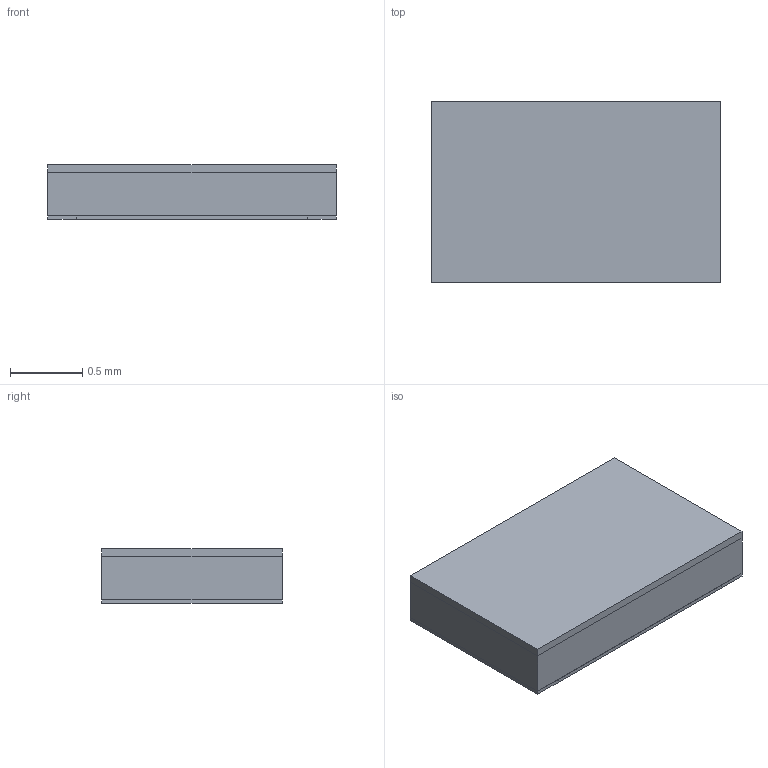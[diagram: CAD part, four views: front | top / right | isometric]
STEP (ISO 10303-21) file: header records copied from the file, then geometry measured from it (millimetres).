
FILE_DESCRIPTION(('STEP AP203'), '1');
FILE_NAME('栖闉罻', '', ('UNSPECIFIED'), ('UNSPECIFIED'), 'ASCON STEP Converter 1.6', 'ASCON Math Kernel', '');
FILE_SCHEMA(('CONFIG_CONTROL_DESIGN'));
Length unit declared in the file: millimetre
Assembly tree (1 placements, depth 2):
  (unnamed)
    (unnamed)
Bounding box: 2 x 1.25 x 0.38 mm (x, y, z)
Volume: 0.9 mm3; surface area: 17.8 mm2
Topology: 5 solids, 6 shells, 49 faces, 111 edges, 74 vertices
Faces by surface type: plane 45, cylinder 4
Entity records: 1865 total; most frequent: CARTESIAN_POINT 236, ORIENTED_EDGE 222, DIRECTION 221, EDGE_CURVE 111, LINE 103, VECTOR 103, VERTEX_POINT 74, AXIS2_PLACEMENT_3D 59
